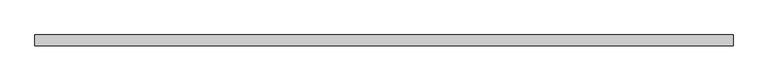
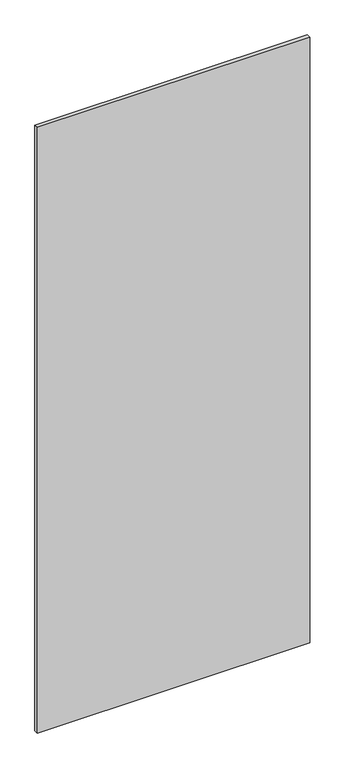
"""IFC4 building model written with IfcOpenShell, lengths in millimetres: plate geometry, 系统嵌板 : 玻璃."""

import ifcopenshell
import ifcopenshell.guid

model = None  # the IFC model being written
_history = None  # IfcOwnerHistory: only IFC2X3 demands one
_inside = {}  # id of a spatial element -> (the spatial element, [elements in it])
_under = {}  # id of a project, library or spatial element -> (it, [spatial elements below it])
_declared = {}  # id of a project -> (the project, [libraries it declares])
_typed = {}  # id of a type object -> (the type object, [elements of that type])
_made_of = {}  # id of a material, layer set ... -> (it, [elements and type objects made of it])


def new_model(schema):
    """Start an empty IFC model of exactly this schema.

    Asked for "IFC4X3", IfcOpenShell would pick the latest addendum, in which some entities
    have other attributes; the version numbers below select the first issue.
    IFC2X3 requires an IfcOwnerHistory on every rooted entity: one is made here for all.
    """
    global model, _history
    if schema == "IFC4X3":
        model = ifcopenshell.file(schema_version=(4, 3, 0, 0))
    else:
        model = ifcopenshell.file(schema=schema)
    _inside.clear()
    _under.clear()
    _declared.clear()
    _typed.clear()
    _made_of.clear()
    _history = None
    if model.schema == "IFC2X3":
        org = make("IfcOrganization", Name="unknown")
        user = make(
            "IfcPersonAndOrganization",
            ThePerson=make("IfcPerson", FamilyName="unknown"),
            TheOrganization=org,
        )
        app = make(
            "IfcApplication",
            ApplicationDeveloper=org,
            Version="unknown",
            ApplicationFullName="unknown",
            ApplicationIdentifier="unknown",
        )
        _history = make(
            "IfcOwnerHistory",
            OwningUser=user,
            OwningApplication=app,
            ChangeAction="ADDED",
            CreationDate=0,
        )
    return model


def make(cls, **values):
    """One entity of the class cls with the attributes given. An attribute that is None is left unset."""
    return model.create_entity(
        cls, **{name: value for name, value in values.items() if value is not None}
    )


def rooted(cls, **values):
    """An entity with a GlobalId (a new one), such as an element, a storey or a relation."""
    return make(cls, GlobalId=ifcopenshell.guid.new(), OwnerHistory=_history, **values)


def si_unit(unit_type, name, prefix=None):
    """IfcSIUnit, for example si_unit("LENGTHUNIT", "METRE", prefix="MILLI")."""
    return make("IfcSIUnit", UnitType=unit_type, Prefix=prefix, Name=name)


def assignment(units):
    """IfcUnitAssignment: the units of a project."""
    return None if units is None else make("IfcUnitAssignment", Units=units)


def point(xyz):
    """IfcCartesianPoint."""
    return None if xyz is None else make("IfcCartesianPoint", Coordinates=xyz)


def direction(xyz):
    """IfcDirection."""
    return None if xyz is None else make("IfcDirection", DirectionRatios=xyz)


def frame(location, z_axis=None, x_axis=None):
    """IfcAxis2Placement3D, a coordinate frame: its origin and axes. An axis left out is left unset."""
    return make(
        "IfcAxis2Placement3D",
        Location=point(location),
        Axis=direction(z_axis),
        RefDirection=direction(x_axis),
    )


def origin():
    """The frame at (0, 0, 0) with its axes left unset."""
    return frame((0.0, 0.0, 0.0))


def origin_with_axes():
    """The frame at (0, 0, 0) with the z axis (0, 0, 1) and the x axis (1, 0, 0) written out."""
    return frame((0.0, 0.0, 0.0), z_axis=(0.0, 0.0, 1.0), x_axis=(1.0, 0.0, 0.0))


def place(relative_to, where):
    """IfcLocalPlacement: puts the frame where relative to a parent placement (None: the world)."""
    return make(
        "IfcLocalPlacement", PlacementRelTo=relative_to, RelativePlacement=where
    )


def context(
    kind, dimensions, precision=None, world=None, true_north=None, identifier=None
):
    """IfcGeometricRepresentationContext, for example the 3D "Model" context."""
    return make(
        "IfcGeometricRepresentationContext",
        ContextIdentifier=identifier,
        ContextType=kind,
        CoordinateSpaceDimension=dimensions,
        Precision=precision,
        WorldCoordinateSystem=world,
        TrueNorth=true_north,
    )


def project(units=None, contexts=None):
    """IfcProject with its units and contexts."""
    return rooted(
        "IfcProject",
        Name="project",
        RepresentationContexts=contexts,
        UnitsInContext=assignment(units),
    )


def spatial(cls, under=None, at=None, **own):
    """A site, building, storey or space (cls), placed at a placement, below another one or the project."""
    s = rooted(cls, ObjectPlacement=at, **own)
    if under is not None:
        _under.setdefault(under.id(), (under, []))[1].append(s)
    return s


def polyline(points):
    """IfcPolyline through the points."""
    return make("IfcPolyline", Points=[point(p) for p in points])


def outline(outer, holes=None, kind="AREA"):
    """IfcArbitraryClosedProfileDef: a profile drawn as a closed curve; with holes, ...WithVoids."""
    if holes is None:
        return make("IfcArbitraryClosedProfileDef", ProfileType=kind, OuterCurve=outer)
    return make(
        "IfcArbitraryProfileDefWithVoids",
        ProfileType=kind,
        OuterCurve=outer,
        InnerCurves=holes,
    )


def extrude(swept, where, along, depth):
    """IfcExtrudedAreaSolid: the profile swept, set in the frame where, extruded along a direction by depth."""
    return make(
        "IfcExtrudedAreaSolid",
        SweptArea=swept,
        Position=where,
        ExtrudedDirection=direction(along),
        Depth=depth,
    )


def shape(context_of_items, identifier, shape_type, items):
    """IfcShapeRepresentation: the items that make up one representation, for example the "Body"."""
    return make(
        "IfcShapeRepresentation",
        ContextOfItems=context_of_items,
        RepresentationIdentifier=identifier,
        RepresentationType=shape_type,
        Items=items,
    )


def source(mapping_origin, context_of_items, identifier, shape_type, items):
    """IfcRepresentationMap: a shape defined once, which mapped items show again and again."""
    return make(
        "IfcRepresentationMap",
        MappingOrigin=mapping_origin,
        MappedRepresentation=shape(context_of_items, identifier, shape_type, items),
    )


def transform(
    local_origin,
    x_axis=None,
    y_axis=None,
    z_axis=None,
    scale=None,
    scale2=None,
    scale3=None,
    uniform=True,
):
    """IfcCartesianTransformationOperator3D, or its non-uniform kind. x_axis, y_axis, z_axis: its Axis1, 2, 3."""
    if uniform:
        return make(
            "IfcCartesianTransformationOperator3D",
            Axis1=direction(x_axis),
            Axis2=direction(y_axis),
            LocalOrigin=point(local_origin),
            Scale=scale,
            Axis3=direction(z_axis),
        )
    return make(
        "IfcCartesianTransformationOperator3DnonUniform",
        Axis1=direction(x_axis),
        Axis2=direction(y_axis),
        LocalOrigin=point(local_origin),
        Scale=scale,
        Axis3=direction(z_axis),
        Scale2=scale2,
        Scale3=scale3,
    )


def mapped(mapping_source, mapping_target):
    """IfcMappedItem: shows the shape of a source again, moved by a transform."""
    return make(
        "IfcMappedItem", MappingSource=mapping_source, MappingTarget=mapping_target
    )


def made_of(thing, what):
    """Note that an element or type object is made of a material, layer set ...; save() writes the relation."""
    if what is not None:
        _made_of.setdefault(what.id(), (what, []))[1].append(thing)
    return thing


def element(
    cls,
    number,
    at=None,
    inside=None,
    cuts=None,
    type_object=None,
    material=None,
    context=None,
    identifier="Body",
    shape_type=None,
    held_by="IfcProductDefinitionShape",
    body=None,
    shapes=None,
    **own,
):
    """One element of the class cls, such as IfcWall. Its Tag is "e" and its number.

    at: its placement. inside: the storey or other place that contains it. cuts: it is an
    opening in that element (IfcRelVoidsElement). A single representation is given by context,
    identifier, shape_type and body (its items); several are given by shapes. held_by: the class
    of the entity that holds the representations. save() writes the other relations.
    """
    e = rooted(cls, Tag="e%d" % number, ObjectPlacement=at, **own)
    if body is not None:
        shapes = [shape(context, identifier, shape_type, body)]
    if shapes is not None:
        e.Representation = make(held_by, Representations=shapes)
    if inside is not None:
        _inside.setdefault(inside.id(), (inside, []))[1].append(e)
    if cuts is not None:
        rooted(
            "IfcRelVoidsElement", RelatingBuildingElement=cuts, RelatedOpeningElement=e
        )
    if type_object is not None:
        _typed.setdefault(type_object.id(), (type_object, []))[1].append(e)
    return made_of(e, material)


def aggregate(whole, parts):
    """IfcRelAggregates: a whole, such as a stair, and the parts it consists of."""
    return rooted("IfcRelAggregates", RelatingObject=whole, RelatedObjects=parts)


def save(model, path):
    """Write the relations noted so far, then the file.

    IfcRelAggregates (storeys below a building ...), IfcRelContainedInSpatialStructure (elements
    in a storey), IfcRelDefinesByType, IfcRelAssociatesMaterial and IfcRelDeclares: one each for
    every whole, place, type object, material and project.
    """
    for whole, parts in _under.values():
        aggregate(whole, parts)
    for where, things in _inside.values():
        rooted(
            "IfcRelContainedInSpatialStructure",
            RelatedElements=things,
            RelatingStructure=where,
        )
    for kind, things in _typed.values():
        rooted("IfcRelDefinesByType", RelatedObjects=things, RelatingType=kind)
    for what, things in _made_of.values():
        rooted("IfcRelAssociatesMaterial", RelatedObjects=things, RelatingMaterial=what)
    for by, libraries in _declared.values():
        rooted("IfcRelDeclares", RelatingContext=by, RelatedDefinitions=libraries)
    model.write(path)


def plate_1dd8f47d(model_context):
    return source(origin(), model_context, "Body", "SweptSolid", [
        extrude(outline(polyline([(820.0, -12.5), (-820.0, -12.5), (-820.0, 12.5), (820.0, 12.5), (820.0, -12.5)])), origin_with_axes(), (0.0, 0.0, 1.0), 3855.0),
    ])


if __name__ == "__main__":
    model = new_model("IFC4")
    model_context = context("Model", 3, world=origin())
    ifc_project = project(units=[si_unit("LENGTHUNIT", "METRE", prefix="MILLI")], contexts=[model_context])
    site = spatial("IfcSite", under=ifc_project)
    building = spatial("IfcBuilding", under=site)
    placement = place(None, origin())
    plate_shape = plate_1dd8f47d(model_context)
    element("IfcPlate", 1, ObjectType="系统嵌板 : 玻璃", at=placement, inside=building, context=model_context, shape_type="MappedRepresentation", body=[
        mapped(plate_shape, transform((0.0, 0.0, 0.0), x_axis=(1.0, 0.0, 0.0), y_axis=(0.0, 1.0, 0.0), z_axis=(0.0, 0.0, 1.0))),
    ])
    save(model, "model.ifc")
